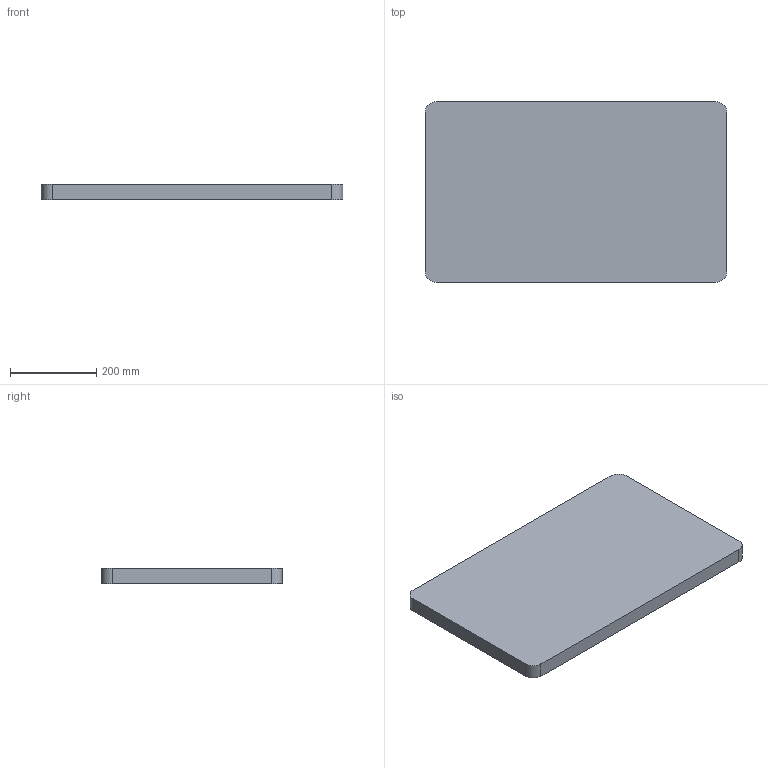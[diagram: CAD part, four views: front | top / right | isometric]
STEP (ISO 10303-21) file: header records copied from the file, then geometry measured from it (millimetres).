
FILE_DESCRIPTION(('Open CASCADE Model'),'2;1');
FILE_NAME('Open CASCADE Shape Model','2026-09-19T16:36:14',('Author'),( 'Open CASCADE'),'Open CASCADE STEP processor 7.8','Open CASCADE 7.8' ,'Unknown');
FILE_SCHEMA(('AUTOMOTIVE_DESIGN { 1 0 10303 214 1 1 1 1 }'));
Length unit declared in the file: millimetre
Products named in the file (1): Open CASCADE STEP translator 7.8 1
Bounding box: 700 x 420 x 35 mm (x, y, z)
Volume: 10271222.3 mm3; surface area: 663824.8 mm2
Topology: 1 solids, 1 shells, 10 faces, 24 edges, 16 vertices
Faces by surface type: plane 6, cylinder 4
Entity records: 630 total; most frequent: CARTESIAN_POINT 123, DIRECTION 98, LINE 56, VECTOR 56, ORIENTED_EDGE 48, PCURVE 48, DEFINITIONAL_REPRESENTATION 48, EDGE_CURVE 24
